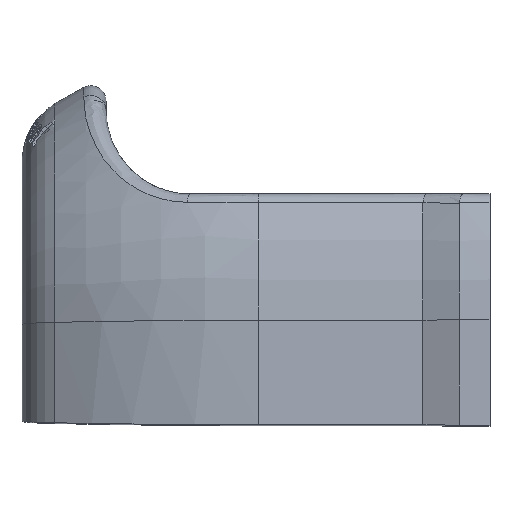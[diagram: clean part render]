
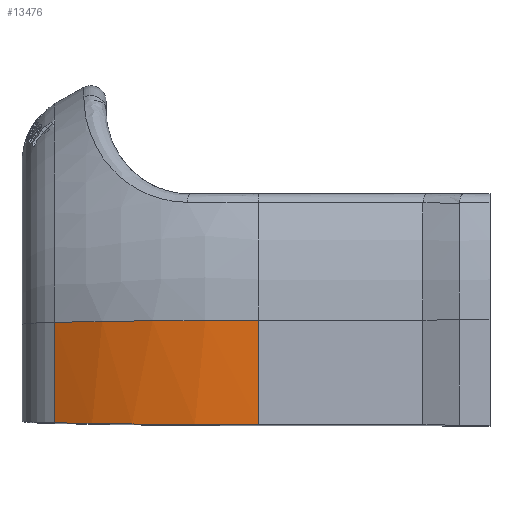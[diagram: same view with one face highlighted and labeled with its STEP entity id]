
A CAD part, top view. The second image highlights one B-rep face of the part: STEP entity #13476.
In plain terms, the highlighted cylindrical face has radius 25.377 mm (diameter 50.753 mm), a partial arc.
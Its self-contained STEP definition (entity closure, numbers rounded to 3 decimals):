
#263 = VERTEX_POINT ( 'NONE', #11029 ) ;
#367 = VECTOR ( 'NONE', #14467, 1000. ) ;
#1084 = DIRECTION ( 'NONE',  ( 0., 0.999, -0.035 ) ) ;
#1182 = VERTEX_POINT ( 'NONE', #1917 ) ;
#1227 = VERTEX_POINT ( 'NONE', #13910 ) ;
#1475 = CYLINDRICAL_SURFACE ( 'NONE', #14356, 25.376 ) ;
#1917 = CARTESIAN_POINT ( 'NONE',  ( 7.969, -6.053, 15.062 ) ) ;
#2093 = ORIENTED_EDGE ( 'NONE', *, *, #18566, .F. ) ;
#2598 = EDGE_LOOP ( 'NONE', ( #15897, #16964, #2093, #9570 ) ) ;
#2810 = CARTESIAN_POINT ( 'NONE',  ( 21.34, -6.187, 18.877 ) ) ;
#2844 = VECTOR ( 'NONE', #14510, 1000. ) ;
#3302 = LINE ( 'NONE', #8289, #367 ) ;
#3397 = VERTEX_POINT ( 'NONE', #2810 ) ;
#3432 = CARTESIAN_POINT ( 'NONE',  ( 12.011, -6.141, 17.572 ) ) ;
#3771 = CIRCLE ( 'NONE', #5235, 25.376 ) ;
#5235 = AXIS2_PLACEMENT_3D ( 'NONE', #18409, #5407, #11294 ) ;
#5407 = DIRECTION ( 'NONE',  ( 0., 0.999, -0.035 ) ) ;
#6202 = CARTESIAN_POINT ( 'NONE',  ( 7.969, -6.053, 15.062 ) ) ;
#7318 = LINE ( 'NONE', #7481, #2844 ) ;
#7481 = CARTESIAN_POINT ( 'NONE',  ( 7.969, -9.476, 15.181 ) ) ;
#7820 =( BOUNDED_CURVE ( )  B_SPLINE_CURVE ( 3, ( #11921, #12039, #3432, #6202 ),
 .UNSPECIFIED., .F., .F. ) 
 B_SPLINE_CURVE_WITH_KNOTS ( ( 4, 4 ),
 ( 3.142, 3.697 ),
 .UNSPECIFIED. ) 
 CURVE ( )  GEOMETRIC_REPRESENTATION_ITEM ( )  RATIONAL_B_SPLINE_CURVE ( ( 1., 0.974, 0.974, 1. ) ) 
 REPRESENTATION_ITEM ( '' )  );
#8289 = CARTESIAN_POINT ( 'NONE',  ( 21.34, -9.343, 18.988 ) ) ;
#8476 = EDGE_CURVE ( 'NONE', #3397, #1227, #3302, .T. ) ;
#8937 = EDGE_CURVE ( 'NONE', #263, #1227, #3771, .T. ) ;
#9570 = ORIENTED_EDGE ( 'NONE', *, *, #8476, .T. ) ;
#10222 = FACE_OUTER_BOUND ( 'NONE', #2598, .T. ) ;
#11029 = CARTESIAN_POINT ( 'NONE',  ( 7.969, 0.518, 14.833 ) ) ;
#11294 = DIRECTION ( 'NONE',  ( 0., -0.035, -0.999 ) ) ;
#11921 = CARTESIAN_POINT ( 'NONE',  ( 21.34, -6.187, 18.877 ) ) ;
#12039 = CARTESIAN_POINT ( 'NONE',  ( 16.584, -6.187, 18.877 ) ) ;
#12361 = EDGE_CURVE ( 'NONE', #263, #1182, #7318, .T. ) ;
#13476 = ADVANCED_FACE ( 'NONE', ( #10222 ), #1475, .T. ) ;
#13910 = CARTESIAN_POINT ( 'NONE',  ( 21.34, 0.651, 18.639 ) ) ;
#14356 = AXIS2_PLACEMENT_3D ( 'NONE', #18183, #1084, #18295 ) ;
#14467 = DIRECTION ( 'NONE',  ( 0., 0.999, -0.035 ) ) ;
#14510 = DIRECTION ( 'NONE',  ( 0., -0.999, 0.035 ) ) ;
#15897 = ORIENTED_EDGE ( 'NONE', *, *, #8937, .F. ) ;
#16964 = ORIENTED_EDGE ( 'NONE', *, *, #12361, .T. ) ;
#18183 = CARTESIAN_POINT ( 'NONE',  ( 21.34, -10.229, -6.373 ) ) ;
#18295 = DIRECTION ( 'NONE',  ( 0., 0.035, 0.999 ) ) ;
#18409 = CARTESIAN_POINT ( 'NONE',  ( 21.34, -0.235, -6.722 ) ) ;
#18566 = EDGE_CURVE ( 'NONE', #3397, #1182, #7820, .T. ) ;
